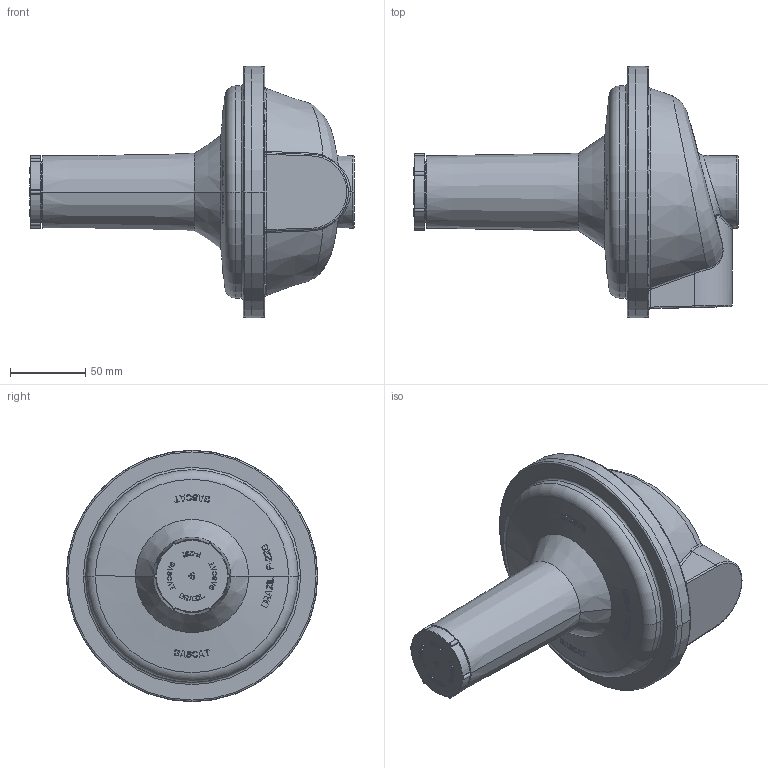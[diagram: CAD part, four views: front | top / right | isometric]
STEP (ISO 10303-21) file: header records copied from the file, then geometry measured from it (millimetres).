
FILE_DESCRIPTION((''),'2;1');
FILE_NAME('JR_LP_MONT_COMERCIAL','2019-02-13T',('jjunior'),(''),'PRO/ENGINEER BY PARAMETRIC TECHNOLOGY CORPORATION, 2010160','PRO/ENGINEER BY PARAMETRIC TECHNOLOGY CORPORATION, 2010160','');
FILE_SCHEMA(('CONFIG_CONTROL_DESIGN'));
Length unit declared in the file: millimetre
Products named in the file (1): JR_LP_MONT_COMERCIAL
Bounding box: 215.5 x 166.99 x 166.99 mm (x, y, z)
Volume: 1344340.2 mm3; surface area: 90794.8 mm2
Topology: 1 solids, 2 shells, 1586 faces, 4452 edges, 2941 vertices
Faces by surface type: plane 1437, bspline 46, cylinder 38, cone 38, torus 27
Entity records: 54825 total; most frequent: CARTESIAN_POINT 16088, ORIENTED_EDGE 8904, DIRECTION 6589, EDGE_CURVE 4452, VECTOR 3213, LINE 3213, VERTEX_POINT 2941, AXIS2_PLACEMENT_3D 1688
